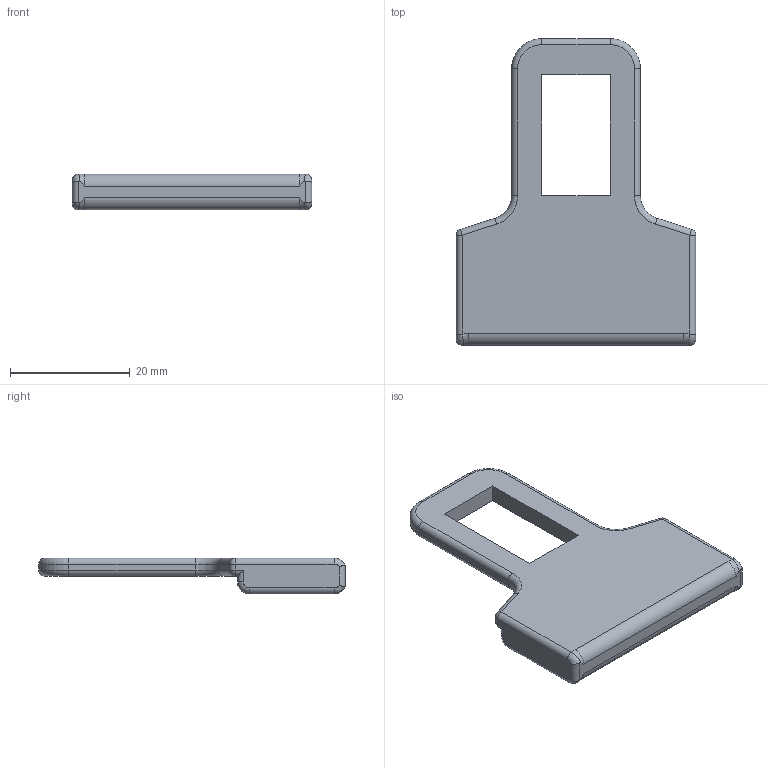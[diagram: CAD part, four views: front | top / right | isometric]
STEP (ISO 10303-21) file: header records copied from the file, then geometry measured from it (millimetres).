
FILE_DESCRIPTION (( 'STEP AP203' ), '1' );
FILE_NAME ('Back Seat Belt Buckle for Hyundai Tucson2021.STEP', '2025-01-06T13:46:56', ( '' ), ( '' ), 'SwSTEP 2.0', 'SolidWorks 2024', '' );
FILE_SCHEMA (( 'CONFIG_CONTROL_DESIGN' ));
Length unit declared in the file: millimetre
Products named in the file (1): Back Seat Belt Buckle for Hyundai Tucson2021
Bounding box: 40 x 51.19 x 6 mm (x, y, z)
Volume: 5724.7 mm3; surface area: 3309.3 mm2
Topology: 1 solids, 1 shells, 67 faces, 157 edges, 92 vertices
Faces by surface type: cylinder 29, plane 16, torus 14, bspline 4, sphere 4
Entity records: 2164 total; most frequent: CARTESIAN_POINT 571, DIRECTION 327, ORIENTED_EDGE 314, EDGE_CURVE 157, AXIS2_PLACEMENT_3D 128, VERTEX_POINT 92, VECTOR 71, LINE 71
